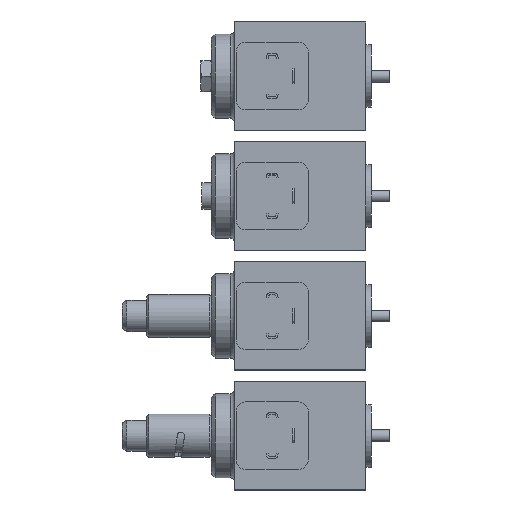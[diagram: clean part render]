
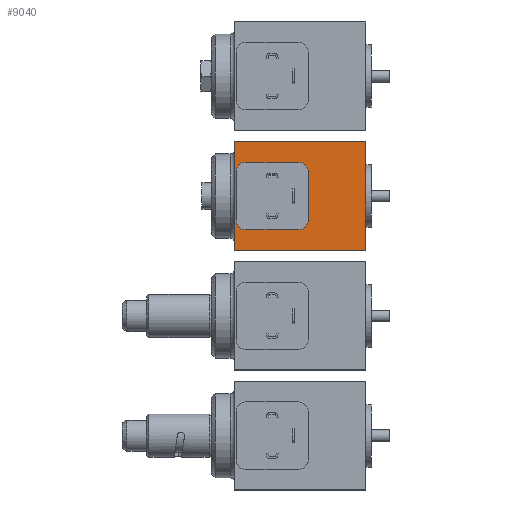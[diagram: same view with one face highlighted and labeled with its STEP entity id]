
A CAD part, top view. The second image highlights one B-rep face of the part: STEP entity #9040.
In plain terms, the highlighted planar face has unit normal (0, 0, 1).
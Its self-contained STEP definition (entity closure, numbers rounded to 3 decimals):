
#9040=ADVANCED_FACE('', (#9050,#9060,#9070,#9080,#9090), #9100, .T.);
#35310=AXIS2_PLACEMENT_3D('Ax2Pl3d', #35320, #35330, #35340);
#35390=AXIS2_PLACEMENT_3D('Ax2Pl3d', #35400, #35410, #35420);
#35430=AXIS2_PLACEMENT_3D('Ax2Pl3d', #35440, #35450, #35460);
#35470=AXIS2_PLACEMENT_3D('Ax2Pl3d', #35480, #35490, #35500);
#35510=AXIS2_PLACEMENT_3D('Ax2Pl3d', #35520, #35530, #35540);
#65110=CARTESIAN_POINT('', (57.2,145.,145.));
#65120=CARTESIAN_POINT('', (57.2,145.,145.));
#65130=CARTESIAN_POINT('', (57.2,100.,145.));
#35320=CARTESIAN_POINT('HicPkt', (14.7,122.5,145.));
#65190=CARTESIAN_POINT('', (14.7,130.,145.));
#35400=CARTESIAN_POINT('HicPkt', (2.7,145.,145.));
#65210=CARTESIAN_POINT('', (2.7,100.,145.));
#65220=CARTESIAN_POINT('', (2.7,145.,145.));
#65230=CARTESIAN_POINT('', (2.7,100.,145.));
#65240=CARTESIAN_POINT('', (57.2,100.,145.));
#65250=CARTESIAN_POINT('', (2.7,145.,145.));
#35440=CARTESIAN_POINT('HicPkt', (25.2,122.5,145.));
#65260=CARTESIAN_POINT('', (25.2,124.,145.));
#35480=CARTESIAN_POINT('HicPkt', (9.45,131.75,145.));
#65270=CARTESIAN_POINT('', (9.45,133.25,145.));
#35520=CARTESIAN_POINT('HicPkt', (27.95,113.25,145.));
#65280=CARTESIAN_POINT('', (27.95,114.75,145.));
#72950=CIRCLE('Circle', #35310, 7.5);
#72970=CIRCLE('Circle', #35430, 1.5);
#72980=CIRCLE('Circle', #35470, 1.5);
#72990=CIRCLE('Circle', #35510, 1.5);
#109670=DIRECTION('', (0.,1.,0.));
#35330=DIRECTION('Axis', (0.,0.,1.));
#35340=DIRECTION('RefDirection', (1.,0.,0.));
#35410=DIRECTION('Axis', (0.,0.,1.));
#35420=DIRECTION('RefDirection', (1.,0.,0.));
#109690=DIRECTION('', (0.,-1.,0.));
#109700=DIRECTION('', (1.,0.,0.));
#109710=DIRECTION('', (-1.,0.,0.));
#35450=DIRECTION('Axis', (0.,0.,1.));
#35460=DIRECTION('RefDirection', (1.,0.,0.));
#35490=DIRECTION('Axis', (0.,0.,1.));
#35500=DIRECTION('RefDirection', (1.,0.,0.));
#35530=DIRECTION('Axis', (0.,0.,1.));
#35540=DIRECTION('RefDirection', (1.,0.,0.));
#122680=EDGE_CURVE('', #122690, #122660, #122700, .T.);
#122810=EDGE_CURVE('', #122820, #122820, #72950, .T.);
#122850=EDGE_CURVE('', #122860, #122870, #122880, .T.);
#122890=EDGE_CURVE('', #122870, #122690, #122900, .T.);
#122910=EDGE_CURVE('', #122660, #122860, #122920, .T.);
#122930=EDGE_CURVE('', #122940, #122940, #72970, .T.);
#122950=EDGE_CURVE('', #122960, #122960, #72980, .T.);
#122970=EDGE_CURVE('', #122980, #122980, #72990, .T.);
#145790=EDGE_LOOP('Edge_loop', (#145800,#145810,#145820,#145830));
#145840=EDGE_LOOP('Edge_loop', (#145850));
#145860=EDGE_LOOP('Edge_loop', (#145870));
#145880=EDGE_LOOP('Edge_loop', (#145890));
#145900=EDGE_LOOP('Edge_loop', (#145910));
#9060=FACE_BOUND('', #145840, .T.);
#9070=FACE_BOUND('', #145860, .T.);
#9080=FACE_BOUND('', #145880, .T.);
#9090=FACE_BOUND('', #145900, .T.);
#9050=FACE_OUTER_BOUND('Face_outer_bound', #145790, .T.);
#122700=LINE('Line', #65120, #171620);
#122880=LINE('Line', #65210, #171640);
#122900=LINE('Line', #65240, #171650);
#122920=LINE('Line', #65250, #171660);
#145800=ORIENTED_EDGE('', *, *, #122850, .T.);
#145810=ORIENTED_EDGE('', *, *, #122890, .T.);
#145820=ORIENTED_EDGE('', *, *, #122680, .T.);
#145830=ORIENTED_EDGE('', *, *, #122910, .T.);
#145850=ORIENTED_EDGE('', *, *, #122810, .F.);
#145870=ORIENTED_EDGE('', *, *, #122930, .F.);
#145890=ORIENTED_EDGE('', *, *, #122950, .F.);
#145910=ORIENTED_EDGE('', *, *, #122970, .F.);
#9100=PLANE('Plane', #35390);
#171620=VECTOR('', #109670, 45.);
#171640=VECTOR('', #109690, 45.);
#171650=VECTOR('', #109700, 54.5);
#171660=VECTOR('', #109710, 54.5);
#122660=VERTEX_POINT('', #65110);
#122690=VERTEX_POINT('', #65130);
#122820=VERTEX_POINT('', #65190);
#122860=VERTEX_POINT('', #65220);
#122870=VERTEX_POINT('', #65230);
#122940=VERTEX_POINT('', #65260);
#122960=VERTEX_POINT('', #65270);
#122980=VERTEX_POINT('', #65280);
